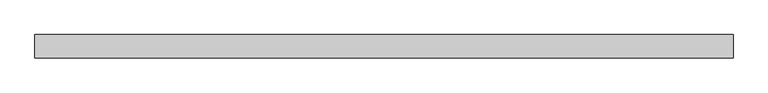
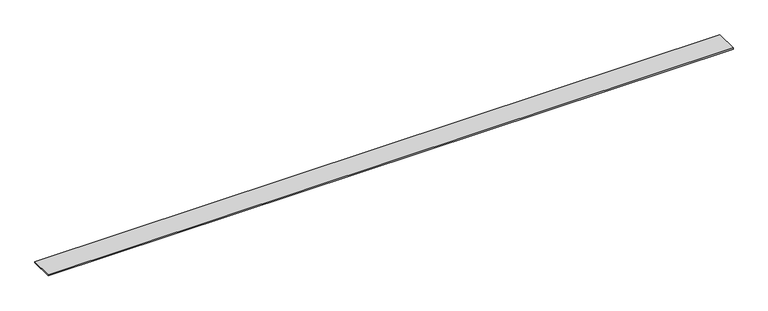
"""IFC4 building model written with IfcOpenShell, lengths in millimetres: furniture geometry, Geiger_GeigerOneCasegoods_WallTopTrimSingleSidedWall : 78Wx2.625Dx0.125H."""

import ifcopenshell
import ifcopenshell.guid

model = None  # the IFC model being written
_history = None  # IfcOwnerHistory: only IFC2X3 demands one
_inside = {}  # id of a spatial element -> (the spatial element, [elements in it])
_under = {}  # id of a project, library or spatial element -> (it, [spatial elements below it])
_declared = {}  # id of a project -> (the project, [libraries it declares])
_typed = {}  # id of a type object -> (the type object, [elements of that type])
_made_of = {}  # id of a material, layer set ... -> (it, [elements and type objects made of it])


def new_model(schema):
    """Start an empty IFC model of exactly this schema.

    Asked for "IFC4X3", IfcOpenShell would pick the latest addendum, in which some entities
    have other attributes; the version numbers below select the first issue.
    IFC2X3 requires an IfcOwnerHistory on every rooted entity: one is made here for all.
    """
    global model, _history
    if schema == "IFC4X3":
        model = ifcopenshell.file(schema_version=(4, 3, 0, 0))
    else:
        model = ifcopenshell.file(schema=schema)
    _inside.clear()
    _under.clear()
    _declared.clear()
    _typed.clear()
    _made_of.clear()
    _history = None
    if model.schema == "IFC2X3":
        org = make("IfcOrganization", Name="unknown")
        user = make(
            "IfcPersonAndOrganization",
            ThePerson=make("IfcPerson", FamilyName="unknown"),
            TheOrganization=org,
        )
        app = make(
            "IfcApplication",
            ApplicationDeveloper=org,
            Version="unknown",
            ApplicationFullName="unknown",
            ApplicationIdentifier="unknown",
        )
        _history = make(
            "IfcOwnerHistory",
            OwningUser=user,
            OwningApplication=app,
            ChangeAction="ADDED",
            CreationDate=0,
        )
    return model


def make(cls, **values):
    """One entity of the class cls with the attributes given. An attribute that is None is left unset."""
    return model.create_entity(
        cls, **{name: value for name, value in values.items() if value is not None}
    )


def rooted(cls, **values):
    """An entity with a GlobalId (a new one), such as an element, a storey or a relation."""
    return make(cls, GlobalId=ifcopenshell.guid.new(), OwnerHistory=_history, **values)


def si_unit(unit_type, name, prefix=None):
    """IfcSIUnit, for example si_unit("LENGTHUNIT", "METRE", prefix="MILLI")."""
    return make("IfcSIUnit", UnitType=unit_type, Prefix=prefix, Name=name)


def assignment(units):
    """IfcUnitAssignment: the units of a project."""
    return None if units is None else make("IfcUnitAssignment", Units=units)


def point(xyz):
    """IfcCartesianPoint."""
    return None if xyz is None else make("IfcCartesianPoint", Coordinates=xyz)


def direction(xyz):
    """IfcDirection."""
    return None if xyz is None else make("IfcDirection", DirectionRatios=xyz)


def frame(location, z_axis=None, x_axis=None):
    """IfcAxis2Placement3D, a coordinate frame: its origin and axes. An axis left out is left unset."""
    return make(
        "IfcAxis2Placement3D",
        Location=point(location),
        Axis=direction(z_axis),
        RefDirection=direction(x_axis),
    )


def origin():
    """The frame at (0, 0, 0) with its axes left unset."""
    return frame((0.0, 0.0, 0.0))


def origin_with_axes():
    """The frame at (0, 0, 0) with the z axis (0, 0, 1) and the x axis (1, 0, 0) written out."""
    return frame((0.0, 0.0, 0.0), z_axis=(0.0, 0.0, 1.0), x_axis=(1.0, 0.0, 0.0))


def place(relative_to, where):
    """IfcLocalPlacement: puts the frame where relative to a parent placement (None: the world)."""
    return make(
        "IfcLocalPlacement", PlacementRelTo=relative_to, RelativePlacement=where
    )


def context(
    kind, dimensions, precision=None, world=None, true_north=None, identifier=None
):
    """IfcGeometricRepresentationContext, for example the 3D "Model" context."""
    return make(
        "IfcGeometricRepresentationContext",
        ContextIdentifier=identifier,
        ContextType=kind,
        CoordinateSpaceDimension=dimensions,
        Precision=precision,
        WorldCoordinateSystem=world,
        TrueNorth=true_north,
    )


def project(units=None, contexts=None):
    """IfcProject with its units and contexts."""
    return rooted(
        "IfcProject",
        Name="project",
        RepresentationContexts=contexts,
        UnitsInContext=assignment(units),
    )


def spatial(cls, under=None, at=None, **own):
    """A site, building, storey or space (cls), placed at a placement, below another one or the project."""
    s = rooted(cls, ObjectPlacement=at, **own)
    if under is not None:
        _under.setdefault(under.id(), (under, []))[1].append(s)
    return s


def polyline(points):
    """IfcPolyline through the points."""
    return make("IfcPolyline", Points=[point(p) for p in points])


def outline(outer, holes=None, kind="AREA"):
    """IfcArbitraryClosedProfileDef: a profile drawn as a closed curve; with holes, ...WithVoids."""
    if holes is None:
        return make("IfcArbitraryClosedProfileDef", ProfileType=kind, OuterCurve=outer)
    return make(
        "IfcArbitraryProfileDefWithVoids",
        ProfileType=kind,
        OuterCurve=outer,
        InnerCurves=holes,
    )


def extrude(swept, where, along, depth):
    """IfcExtrudedAreaSolid: the profile swept, set in the frame where, extruded along a direction by depth."""
    return make(
        "IfcExtrudedAreaSolid",
        SweptArea=swept,
        Position=where,
        ExtrudedDirection=direction(along),
        Depth=depth,
    )


def shape(context_of_items, identifier, shape_type, items):
    """IfcShapeRepresentation: the items that make up one representation, for example the "Body"."""
    return make(
        "IfcShapeRepresentation",
        ContextOfItems=context_of_items,
        RepresentationIdentifier=identifier,
        RepresentationType=shape_type,
        Items=items,
    )


def source(mapping_origin, context_of_items, identifier, shape_type, items):
    """IfcRepresentationMap: a shape defined once, which mapped items show again and again."""
    return make(
        "IfcRepresentationMap",
        MappingOrigin=mapping_origin,
        MappedRepresentation=shape(context_of_items, identifier, shape_type, items),
    )


def transform(
    local_origin,
    x_axis=None,
    y_axis=None,
    z_axis=None,
    scale=None,
    scale2=None,
    scale3=None,
    uniform=True,
):
    """IfcCartesianTransformationOperator3D, or its non-uniform kind. x_axis, y_axis, z_axis: its Axis1, 2, 3."""
    if uniform:
        return make(
            "IfcCartesianTransformationOperator3D",
            Axis1=direction(x_axis),
            Axis2=direction(y_axis),
            LocalOrigin=point(local_origin),
            Scale=scale,
            Axis3=direction(z_axis),
        )
    return make(
        "IfcCartesianTransformationOperator3DnonUniform",
        Axis1=direction(x_axis),
        Axis2=direction(y_axis),
        LocalOrigin=point(local_origin),
        Scale=scale,
        Axis3=direction(z_axis),
        Scale2=scale2,
        Scale3=scale3,
    )


def mapped(mapping_source, mapping_target):
    """IfcMappedItem: shows the shape of a source again, moved by a transform."""
    return make(
        "IfcMappedItem", MappingSource=mapping_source, MappingTarget=mapping_target
    )


def made_of(thing, what):
    """Note that an element or type object is made of a material, layer set ...; save() writes the relation."""
    if what is not None:
        _made_of.setdefault(what.id(), (what, []))[1].append(thing)
    return thing


def element(
    cls,
    number,
    at=None,
    inside=None,
    cuts=None,
    type_object=None,
    material=None,
    context=None,
    identifier="Body",
    shape_type=None,
    held_by="IfcProductDefinitionShape",
    body=None,
    shapes=None,
    **own,
):
    """One element of the class cls, such as IfcWall. Its Tag is "e" and its number.

    at: its placement. inside: the storey or other place that contains it. cuts: it is an
    opening in that element (IfcRelVoidsElement). A single representation is given by context,
    identifier, shape_type and body (its items); several are given by shapes. held_by: the class
    of the entity that holds the representations. save() writes the other relations.
    """
    e = rooted(cls, Tag="e%d" % number, ObjectPlacement=at, **own)
    if body is not None:
        shapes = [shape(context, identifier, shape_type, body)]
    if shapes is not None:
        e.Representation = make(held_by, Representations=shapes)
    if inside is not None:
        _inside.setdefault(inside.id(), (inside, []))[1].append(e)
    if cuts is not None:
        rooted(
            "IfcRelVoidsElement", RelatingBuildingElement=cuts, RelatedOpeningElement=e
        )
    if type_object is not None:
        _typed.setdefault(type_object.id(), (type_object, []))[1].append(e)
    return made_of(e, material)


def aggregate(whole, parts):
    """IfcRelAggregates: a whole, such as a stair, and the parts it consists of."""
    return rooted("IfcRelAggregates", RelatingObject=whole, RelatedObjects=parts)


def save(model, path):
    """Write the relations noted so far, then the file.

    IfcRelAggregates (storeys below a building ...), IfcRelContainedInSpatialStructure (elements
    in a storey), IfcRelDefinesByType, IfcRelAssociatesMaterial and IfcRelDeclares: one each for
    every whole, place, type object, material and project.
    """
    for whole, parts in _under.values():
        aggregate(whole, parts)
    for where, things in _inside.values():
        rooted(
            "IfcRelContainedInSpatialStructure",
            RelatedElements=things,
            RelatingStructure=where,
        )
    for kind, things in _typed.values():
        rooted("IfcRelDefinesByType", RelatedObjects=things, RelatingType=kind)
    for what, things in _made_of.values():
        rooted("IfcRelAssociatesMaterial", RelatedObjects=things, RelatingMaterial=what)
    for by, libraries in _declared.values():
        rooted("IfcRelDeclares", RelatingContext=by, RelatedDefinitions=libraries)
    model.write(path)


def furniture_53736ba7(model_context):
    return source(origin(), model_context, "Body", "SweptSolid", [
        extrude(outline(polyline([(1981.2, 33.0), (1981.2, -33.0), (0.0, -33.0), (0.0, 33.0), (1981.2, 33.0)])), origin_with_axes(), (0.0, 0.0, 1.0), 3.2004),
    ])


if __name__ == "__main__":
    model = new_model("IFC4")
    model_context = context("Model", 3, world=origin())
    ifc_project = project(units=[si_unit("LENGTHUNIT", "METRE", prefix="MILLI")], contexts=[model_context])
    site = spatial("IfcSite", under=ifc_project)
    building = spatial("IfcBuilding", under=site)
    placement = place(None, origin())
    furniture_shape = furniture_53736ba7(model_context)
    element("IfcFurniture", 1, ObjectType="Geiger_GeigerOneCasegoods_WallTopTrimSingleSidedWall : 78Wx2.625Dx0.125H", at=placement, inside=building, context=model_context, shape_type="MappedRepresentation", body=[
        mapped(furniture_shape, transform((0.0, 0.0, 0.0), x_axis=(1.0, 0.0, 0.0), y_axis=(0.0, 1.0, 0.0), z_axis=(0.0, 0.0, 1.0))),
    ])
    save(model, "model.ifc")
